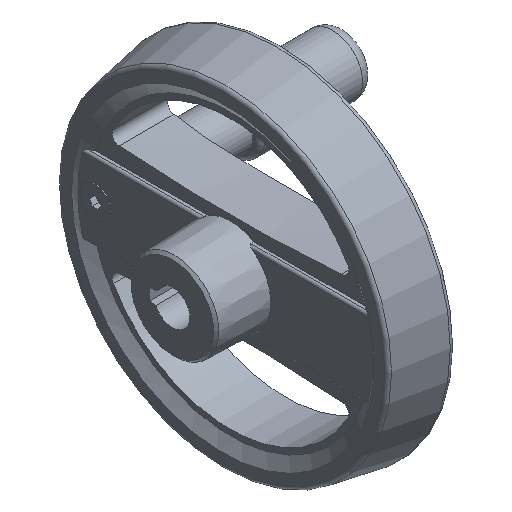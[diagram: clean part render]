
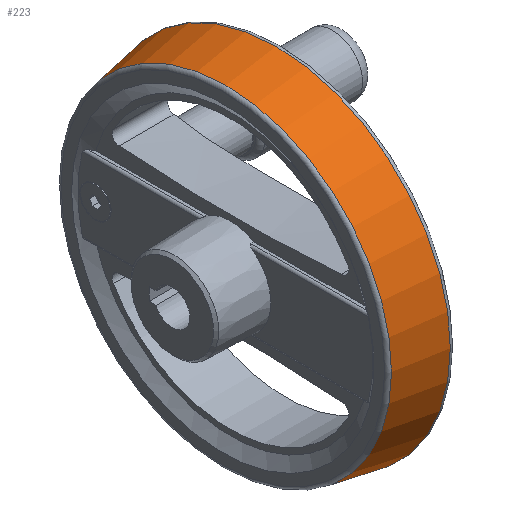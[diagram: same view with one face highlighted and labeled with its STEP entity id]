
A CAD part, isometric view. The second image highlights one B-rep face of the part: STEP entity #223.
In plain terms, the highlighted conical face has half-angle 10 degrees and reference radius 66.287 mm.
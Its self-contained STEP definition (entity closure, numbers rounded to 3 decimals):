
#223 = ADVANCED_FACE( '', ( #402, #403 ), #404, .T. );
#402 = FACE_OUTER_BOUND( '', #657, .T. );
#403 = FACE_BOUND( '', #658, .T. );
#404 = CONICAL_SURFACE( '', #659, 66.287, 0.175 );
#657 = EDGE_LOOP( '', ( #1194 ) );
#658 = EDGE_LOOP( '', ( #1195 ) );
#659 = AXIS2_PLACEMENT_3D( '', #1196, #1197, #1198 );
#1194 = ORIENTED_EDGE( '', *, *, #1710, .F. );
#1195 = ORIENTED_EDGE( '', *, *, #1709, .T. );
#1196 = CARTESIAN_POINT( '', ( 21.44, 0., 0. ) );
#1197 = DIRECTION( '', ( 1., 0., 0. ) );
#1198 = DIRECTION( '', ( 0., 1., 0. ) );
#1709 = EDGE_CURVE( '', #2058, #2058, #2059, .T. );
#1710 = EDGE_CURVE( '', #2060, #2060, #2061, .T. );
#2058 = VERTEX_POINT( '', #2806 );
#2059 = CIRCLE( '', #2807, 66.287 );
#2060 = VERTEX_POINT( '', #2808 );
#2061 = CIRCLE( '', #2809, 69.817 );
#2806 = CARTESIAN_POINT( '', ( 21.44, 66.287, 0. ) );
#2807 = AXIS2_PLACEMENT_3D( '', #3314, #3315, #3316 );
#2808 = CARTESIAN_POINT( '', ( 41.46, 69.817, 0. ) );
#2809 = AXIS2_PLACEMENT_3D( '', #3317, #3318, #3319 );
#3314 = CARTESIAN_POINT( '', ( 21.44, 0., 0. ) );
#3315 = DIRECTION( '', ( 1., 0., 0. ) );
#3316 = DIRECTION( '', ( 0., 1., 0. ) );
#3317 = CARTESIAN_POINT( '', ( 41.46, 0., 0. ) );
#3318 = DIRECTION( '', ( 1., 0., 0. ) );
#3319 = DIRECTION( '', ( 0., 1., 0. ) );
